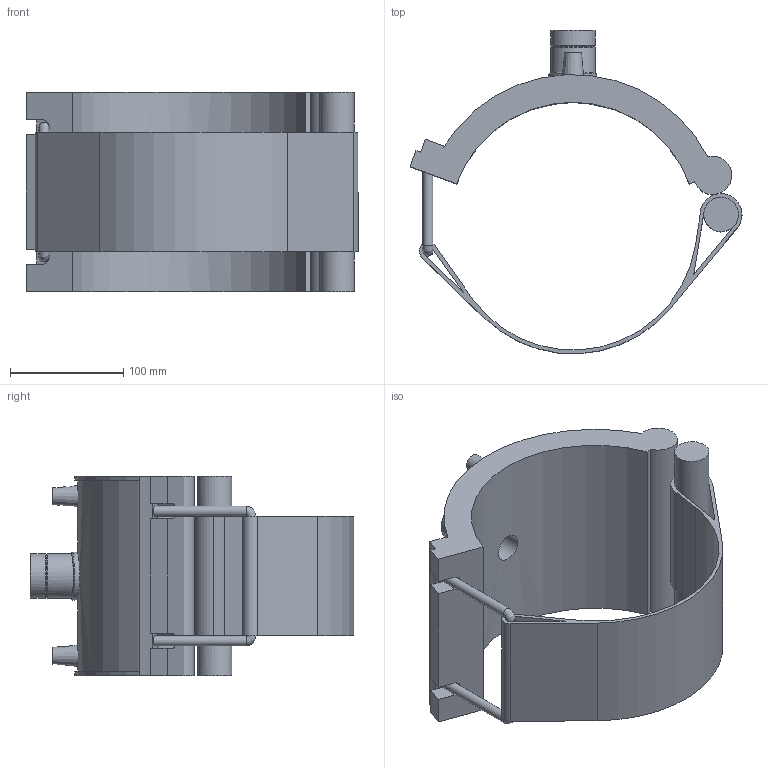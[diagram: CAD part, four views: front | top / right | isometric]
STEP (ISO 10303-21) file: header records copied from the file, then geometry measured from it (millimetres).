
FILE_DESCRIPTION(/* description */ ('PLASSON TRANSITION SADDLE 8''''IPS x 1"NPT'),/* implementation_level */ '2;1');
FILE_NAME(/* name */ 'C:\Dropbox\KIMPROJECTS-Inventor 2019\99-16-3568-Processing Inch\ASTM ElectroFusion 2021\5938B\5938B00308045.ipt.stp',/* time_stamp */ '2021-08-30T09:51:24+03:00',/* author */ ('KIM'),/* organization */ (''),/* preprocessor_version */ 'ST-DEVELOPER v17.2',/* originating_system */ 'Autodesk Inventor 2019',/* authorisation */ '');
FILE_SCHEMA (('AUTOMOTIVE_DESIGN { 1 0 10303 214 3 1 1 }'));
Length unit declared in the file: inch
Products named in the file (1): 5938B00308045
Bounding box: 293.08 x 285.6 x 176.02 mm (x, y, z)
Volume: 1709361.3 mm3; surface area: 291724.9 mm2
Topology: 1 solids, 1 shells, 78 faces, 196 edges, 128 vertices
Faces by surface type: plane 42, cylinder 28, cone 5, torus 2, bspline 1
Full cylindrical faces by diameter (mm): 4 x2, 8.748 x2, 10 x2, 24.233 x1, 30.291 x1, 30.45 x1, 38.378 x1, 39.378 x2, 42.407 x1
Entity records: 2760 total; most frequent: CARTESIAN_POINT 769, DIRECTION 414, ORIENTED_EDGE 394, EDGE_CURVE 197, AXIS2_PLACEMENT_3D 150, VERTEX_POINT 128, LINE 114, VECTOR 114
